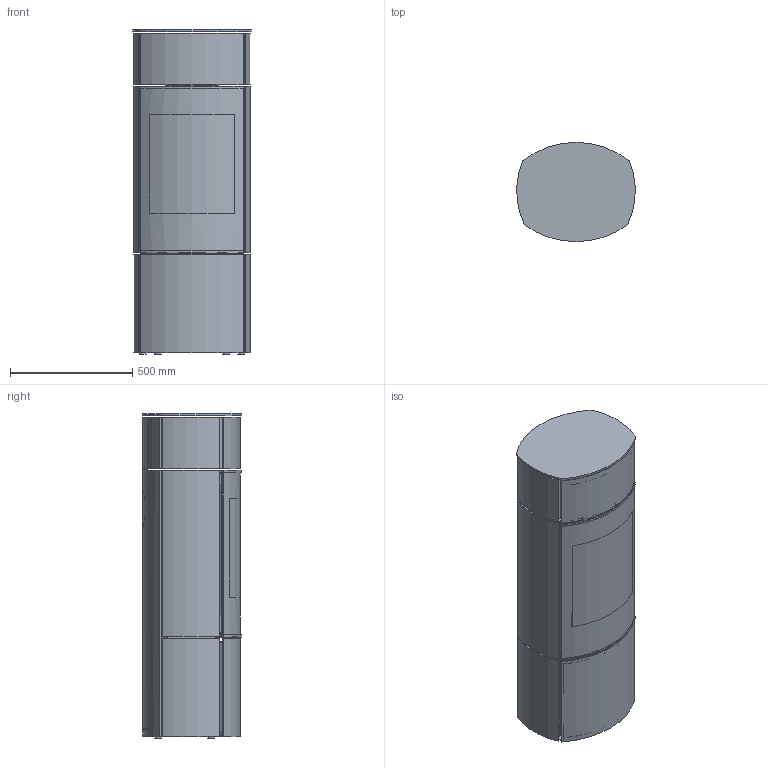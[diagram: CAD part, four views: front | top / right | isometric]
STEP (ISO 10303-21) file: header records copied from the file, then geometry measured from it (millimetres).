
FILE_DESCRIPTION(/* description */ (''),/* implementation_level */ '2;1');
FILE_NAME(/* name */ '14 Caro 130 Gas_14-0503.stp',/* time_stamp */ '2023-11-16T13:55:14+01:00',/* author */ ('ksj'),/* organization */ (''),/* preprocessor_version */ 'ST-DEVELOPER v19.2',/* originating_system */ 'Autodesk Inventor 2023',/* authorisation */ '');
FILE_SCHEMA (('AUTOMOTIVE_DESIGN { 1 0 10303 214 3 1 1 }'));
Products named in the file (1): 14 Caro 130 Gas_14-0503
Bounding box: 484.89 x 407 x 1329 mm (x, y, z)
Volume: 16470660.5 mm3; surface area: 8892998.1 mm2
Topology: 59 solids, 59 shells, 3443 faces, 9268 edges, 5921 vertices
Faces by surface type: plane 2148, cylinder 1252, bspline 33, torus 8, sphere 2
Full cylindrical faces by diameter (mm): 10 x4, 16.1 x2, 25 x4, 110 x2, 200 x1
Entity records: 113503 total; most frequent: CARTESIAN_POINT 21496, ORIENTED_EDGE 18532, DIRECTION 18482, EDGE_CURVE 9266, LINE 6412, VECTOR 6412, AXIS2_PLACEMENT_3D 6035, VERTEX_POINT 5917
